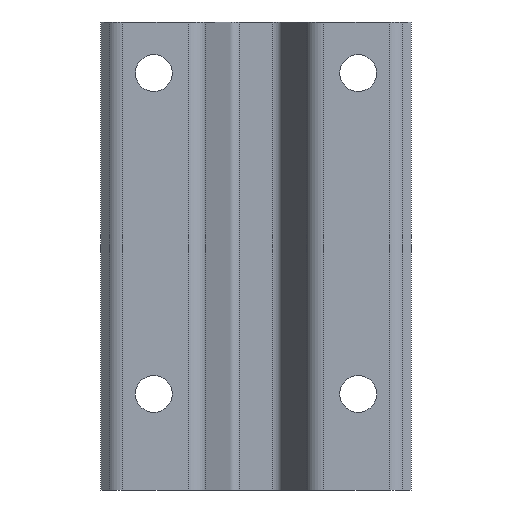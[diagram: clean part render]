
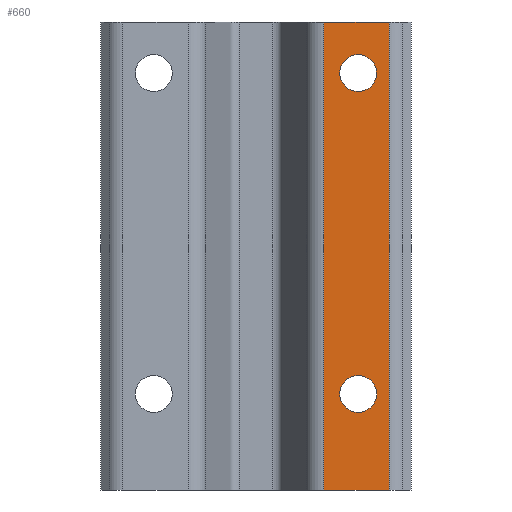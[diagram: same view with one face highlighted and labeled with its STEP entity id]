
A CAD part, front view. The second image highlights one B-rep face of the part: STEP entity #660.
In plain terms, the highlighted planar face has unit normal (0, -1, 0).
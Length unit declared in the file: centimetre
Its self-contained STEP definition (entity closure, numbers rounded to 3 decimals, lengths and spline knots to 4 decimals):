
#18=FACE_BOUND('',#93,.T.);
#19=FACE_BOUND('',#94,.T.);
#30=PLANE('',#712);
#56=FACE_OUTER_BOUND('',#92,.T.);
#92=EDGE_LOOP('',(#496,#497,#498,#499));
#93=EDGE_LOOP('',(#500));
#94=EDGE_LOOP('',(#501));
#144=LINE('',#1032,#208);
#145=LINE('',#1036,#209);
#146=LINE('',#1038,#210);
#147=LINE('',#1039,#211);
#208=VECTOR('',#834,0.1);
#209=VECTOR('',#839,0.1);
#210=VECTOR('',#840,0.1);
#211=VECTOR('',#841,0.1);
#249=CIRCLE('',#687,0.9);
#251=CIRCLE('',#690,0.9);
#281=VERTEX_POINT('',#956);
#283=VERTEX_POINT('',#962);
#306=VERTEX_POINT('',#1029);
#307=VERTEX_POINT('',#1031);
#308=VERTEX_POINT('',#1035);
#309=VERTEX_POINT('',#1037);
#347=EDGE_CURVE('',#281,#281,#249,.T.);
#350=EDGE_CURVE('',#283,#283,#251,.T.);
#383=EDGE_CURVE('',#307,#306,#144,.T.);
#385=EDGE_CURVE('',#306,#308,#145,.T.);
#386=EDGE_CURVE('',#309,#308,#146,.T.);
#387=EDGE_CURVE('',#309,#307,#147,.T.);
#496=ORIENTED_EDGE('',*,*,#385,.T.);
#497=ORIENTED_EDGE('',*,*,#386,.F.);
#498=ORIENTED_EDGE('',*,*,#387,.T.);
#499=ORIENTED_EDGE('',*,*,#383,.T.);
#500=ORIENTED_EDGE('',*,*,#347,.T.);
#501=ORIENTED_EDGE('',*,*,#350,.T.);
#660=ADVANCED_FACE('',(#56,#18,#19),#30,.T.);
#687=AXIS2_PLACEMENT_3D('',#958,#762,#763);
#690=AXIS2_PLACEMENT_3D('',#964,#769,#770);
#712=AXIS2_PLACEMENT_3D('',#1034,#837,#838);
#762=DIRECTION('center_axis',(0.,1.,0.));
#763=DIRECTION('ref_axis',(1.,0.,0.));
#769=DIRECTION('center_axis',(0.,1.,0.));
#770=DIRECTION('ref_axis',(1.,0.,0.));
#834=DIRECTION('',(0.,0.,1.));
#837=DIRECTION('center_axis',(0.,-1.,0.));
#838=DIRECTION('ref_axis',(0.,0.,-1.));
#839=DIRECTION('',(-1.,0.,0.));
#840=DIRECTION('',(0.,0.,1.));
#841=DIRECTION('',(1.,0.,0.));
#956=CARTESIAN_POINT('',(-81.8958,35.6396,20.4));
#958=CARTESIAN_POINT('Origin',(-80.9958,35.6396,20.4));
#962=CARTESIAN_POINT('',(-81.8958,35.6396,4.7));
#964=CARTESIAN_POINT('Origin',(-80.9958,35.6396,4.7));
#1029=CARTESIAN_POINT('',(-79.4706,35.6396,22.9));
#1031=CARTESIAN_POINT('',(-79.4706,35.6396,0.));
#1032=CARTESIAN_POINT('',(-79.4706,35.6396,0.));
#1034=CARTESIAN_POINT('Origin',(-79.4706,35.6396,0.));
#1035=CARTESIAN_POINT('',(-82.685,35.6396,22.9));
#1036=CARTESIAN_POINT('',(-82.685,35.6396,22.9));
#1037=CARTESIAN_POINT('',(-82.685,35.6396,0.));
#1038=CARTESIAN_POINT('',(-82.685,35.6396,0.));
#1039=CARTESIAN_POINT('',(-82.685,35.6396,0.));
